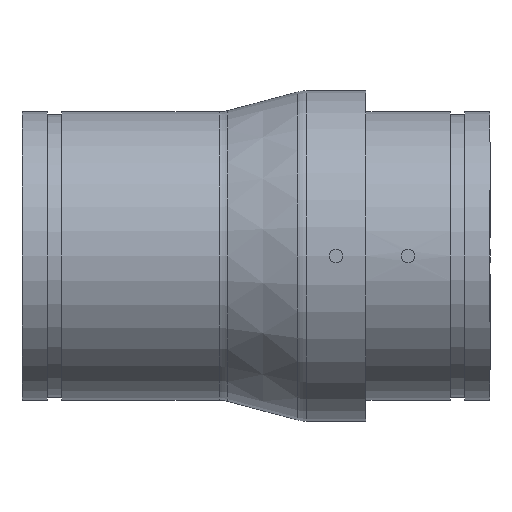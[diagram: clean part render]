
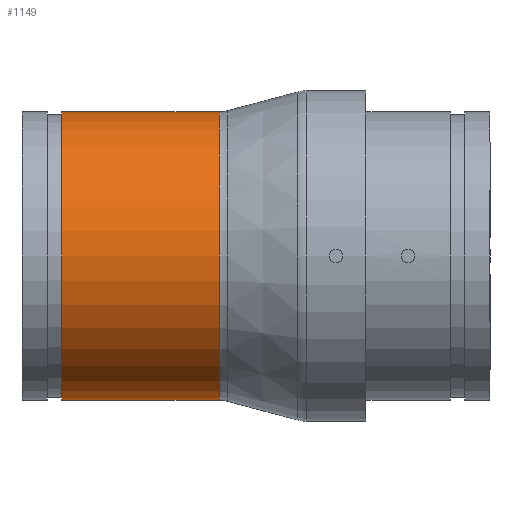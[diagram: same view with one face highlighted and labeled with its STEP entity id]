
A CAD part, front view. The second image highlights one B-rep face of the part: STEP entity #1149.
In plain terms, the highlighted cylindrical face has radius 109.537 mm (diameter 219.075 mm), a full revolution.
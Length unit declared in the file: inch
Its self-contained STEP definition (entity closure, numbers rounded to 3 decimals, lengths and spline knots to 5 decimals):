
#28=B_SPLINE_CURVE_WITH_KNOTS('',3,(#1947,#1948,#1949,#1950,#1951,#1952,
#1953,#1954,#1955,#1956,#1957,#1958,#1959,#1960,#1961,#1962,#1963,#1964,
#1965,#1966,#1967,#1968,#1969,#1970,#1971,#1972),.UNSPECIFIED.,.F.,.F.,
(4,2,2,2,2,2,2,2,2,2,2,2,4),(-15.11551,-14.55743,-13.43515,
-12.31689,-11.19864,-10.08038,-8.96213,
-7.84387,-6.72562,-5.60736,-4.48911,-3.36683,
-2.80875),.UNSPECIFIED.);
#97=CIRCLE('',#1281,4.3125);
#98=CIRCLE('',#1283,4.3125);
#99=CIRCLE('',#1286,4.3125);
#100=CIRCLE('',#1287,4.3125);
#101=CIRCLE('',#1288,4.3125);
#102=CIRCLE('',#1289,4.3125);
#170=FACE_OUTER_BOUND('',#235,.T.);
#235=EDGE_LOOP('',(#894,#895,#896,#897,#898,#899,#900,#901,#902,#903,#904));
#286=ELLIPSE('',#1285,20.29011,4.3125);
#287=ELLIPSE('',#1290,20.29011,4.3125);
#350=LINE('',#2011,#423);
#423=VECTOR('',#1580,4.3125);
#502=VERTEX_POINT('',#1944);
#503=VERTEX_POINT('',#1946);
#508=VERTEX_POINT('',#1986);
#509=VERTEX_POINT('',#1995);
#511=VERTEX_POINT('',#2006);
#512=VERTEX_POINT('',#2008);
#513=VERTEX_POINT('',#2010);
#514=VERTEX_POINT('',#2012);
#515=VERTEX_POINT('',#2015);
#641=EDGE_CURVE('',#503,#502,#28,.T.);
#649=EDGE_CURVE('',#502,#508,#97,.T.);
#650=EDGE_CURVE('',#509,#503,#98,.T.);
#653=EDGE_CURVE('',#511,#508,#286,.T.);
#654=EDGE_CURVE('',#512,#511,#99,.T.);
#655=EDGE_CURVE('',#512,#513,#350,.T.);
#656=EDGE_CURVE('',#513,#514,#100,.T.);
#657=EDGE_CURVE('',#514,#513,#101,.T.);
#658=EDGE_CURVE('',#515,#512,#102,.T.);
#659=EDGE_CURVE('',#509,#515,#287,.T.);
#894=ORIENTED_EDGE('',*,*,#641,.T.);
#895=ORIENTED_EDGE('',*,*,#649,.T.);
#896=ORIENTED_EDGE('',*,*,#653,.F.);
#897=ORIENTED_EDGE('',*,*,#654,.F.);
#898=ORIENTED_EDGE('',*,*,#655,.T.);
#899=ORIENTED_EDGE('',*,*,#656,.T.);
#900=ORIENTED_EDGE('',*,*,#657,.T.);
#901=ORIENTED_EDGE('',*,*,#655,.F.);
#902=ORIENTED_EDGE('',*,*,#658,.F.);
#903=ORIENTED_EDGE('',*,*,#659,.F.);
#904=ORIENTED_EDGE('',*,*,#650,.T.);
#1035=CYLINDRICAL_SURFACE('',#1284,4.3125);
#1149=ADVANCED_FACE('',(#170),#1035,.T.);
#1281=AXIS2_PLACEMENT_3D('',#1993,#1567,#1568);
#1283=AXIS2_PLACEMENT_3D('',#1996,#1571,#1572);
#1284=AXIS2_PLACEMENT_3D('',#2005,#1574,#1575);
#1285=AXIS2_PLACEMENT_3D('',#2007,#1576,#1577);
#1286=AXIS2_PLACEMENT_3D('',#2009,#1578,#1579);
#1287=AXIS2_PLACEMENT_3D('',#2013,#1581,#1582);
#1288=AXIS2_PLACEMENT_3D('',#2014,#1583,#1584);
#1289=AXIS2_PLACEMENT_3D('',#2016,#1585,#1586);
#1290=AXIS2_PLACEMENT_3D('',#2017,#1587,#1588);
#1567=DIRECTION('center_axis',(-1.,0.,0.));
#1568=DIRECTION('ref_axis',(0.,1.,0.));
#1571=DIRECTION('center_axis',(-1.,0.,0.));
#1572=DIRECTION('ref_axis',(0.,1.,0.));
#1574=DIRECTION('center_axis',(1.,0.,0.));
#1575=DIRECTION('ref_axis',(0.,1.,0.));
#1576=DIRECTION('center_axis',(0.213,0.,0.977));
#1577=DIRECTION('ref_axis',(0.977,0.,-0.213));
#1578=DIRECTION('center_axis',(1.,0.,0.));
#1579=DIRECTION('ref_axis',(0.,-1.,0.));
#1580=DIRECTION('',(-1.,0.,0.));
#1581=DIRECTION('center_axis',(1.,0.,0.));
#1582=DIRECTION('ref_axis',(0.,0.,-1.));
#1583=DIRECTION('center_axis',(1.,0.,0.));
#1584=DIRECTION('ref_axis',(0.,0.,-1.));
#1585=DIRECTION('center_axis',(1.,0.,0.));
#1586=DIRECTION('ref_axis',(0.,-1.,0.));
#1587=DIRECTION('center_axis',(0.213,0.,-0.977));
#1588=DIRECTION('ref_axis',(0.977,0.,0.213));
#1944=CARTESIAN_POINT('',(3.37,3.81455,-2.01168));
#1946=CARTESIAN_POINT('',(3.37,3.81455,2.01168));
#1947=CARTESIAN_POINT('Ctrl Pts',(3.37,3.81455,2.01168));
#1948=CARTESIAN_POINT('Ctrl Pts',(3.30399,3.83341,1.97591));
#1949=CARTESIAN_POINT('Ctrl Pts',(3.24009,3.85325,1.93707));
#1950=CARTESIAN_POINT('Ctrl Pts',(3.05533,3.91436,1.81219));
#1951=CARTESIAN_POINT('Ctrl Pts',(2.94226,3.957,1.71798));
#1952=CARTESIAN_POINT('Ctrl Pts',(2.74237,4.0379,1.5181));
#1953=CARTESIAN_POINT('Ctrl Pts',(2.64822,4.07919,1.40521));
#1954=CARTESIAN_POINT('Ctrl Pts',(2.48127,4.15603,1.15835));
#1955=CARTESIAN_POINT('Ctrl Pts',(2.40845,4.19153,1.02437));
#1956=CARTESIAN_POINT('Ctrl Pts',(2.29073,4.25039,0.74325));
#1957=CARTESIAN_POINT('Ctrl Pts',(2.24572,4.27377,0.59585));
#1958=CARTESIAN_POINT('Ctrl Pts',(2.18635,4.30483,0.2976));
#1959=CARTESIAN_POINT('Ctrl Pts',(2.172,4.3125,0.14675));
#1960=CARTESIAN_POINT('Ctrl Pts',(2.172,4.3125,-0.14675));
#1961=CARTESIAN_POINT('Ctrl Pts',(2.18635,4.30483,-0.2976));
#1962=CARTESIAN_POINT('Ctrl Pts',(2.24572,4.27377,-0.59585));
#1963=CARTESIAN_POINT('Ctrl Pts',(2.29073,4.25039,-0.74325));
#1964=CARTESIAN_POINT('Ctrl Pts',(2.40845,4.19153,-1.02437));
#1965=CARTESIAN_POINT('Ctrl Pts',(2.48127,4.15603,-1.15835));
#1966=CARTESIAN_POINT('Ctrl Pts',(2.64822,4.07919,-1.40521));
#1967=CARTESIAN_POINT('Ctrl Pts',(2.74237,4.0379,-1.5181));
#1968=CARTESIAN_POINT('Ctrl Pts',(2.94226,3.957,-1.71798));
#1969=CARTESIAN_POINT('Ctrl Pts',(3.05533,3.91436,-1.81219));
#1970=CARTESIAN_POINT('Ctrl Pts',(3.24009,3.85325,-1.93707));
#1971=CARTESIAN_POINT('Ctrl Pts',(3.30399,3.83341,-1.97591));
#1972=CARTESIAN_POINT('Ctrl Pts',(3.37,3.81455,-2.01168));
#1986=CARTESIAN_POINT('',(3.37,2.10661,-3.76296));
#1993=CARTESIAN_POINT('Origin',(3.37,0.,0.));
#1995=CARTESIAN_POINT('',(3.37,2.10661,3.76296));
#1996=CARTESIAN_POINT('Origin',(3.37,0.,0.));
#2005=CARTESIAN_POINT('Origin',(7.,0.,0.));
#2006=CARTESIAN_POINT('',(5.89649,0.,-4.3125));
#2007=CARTESIAN_POINT('Origin',(-13.93003,0.,
0.));
#2008=CARTESIAN_POINT('',(5.89649,-4.3125,0.));
#2009=CARTESIAN_POINT('Origin',(5.89649,0.,0.));
#2010=CARTESIAN_POINT('',(1.188,-4.3125,0.));
#2011=CARTESIAN_POINT('',(7.,-4.3125,0.));
#2012=CARTESIAN_POINT('',(1.188,4.3125,0.));
#2013=CARTESIAN_POINT('Origin',(1.188,0.,0.));
#2014=CARTESIAN_POINT('Origin',(1.188,0.,0.));
#2015=CARTESIAN_POINT('',(5.89649,0.,4.3125));
#2016=CARTESIAN_POINT('Origin',(5.89649,0.,0.));
#2017=CARTESIAN_POINT('Origin',(-13.93003,0.,
0.));
